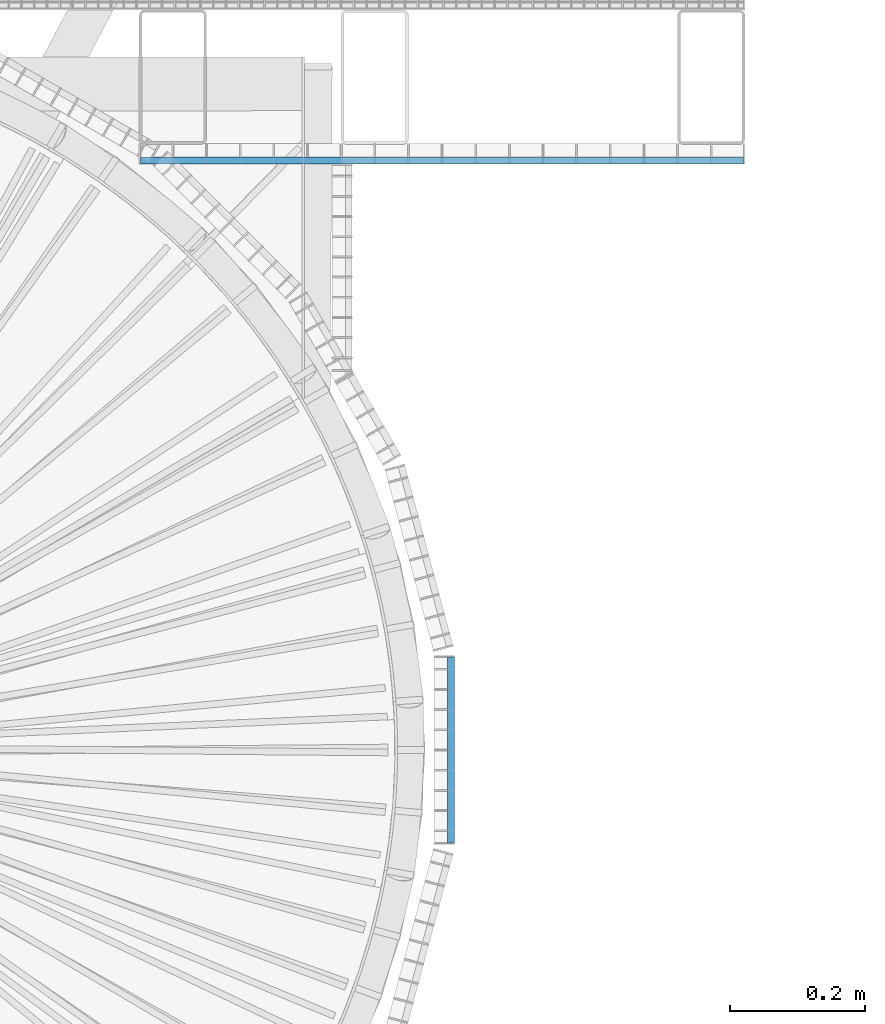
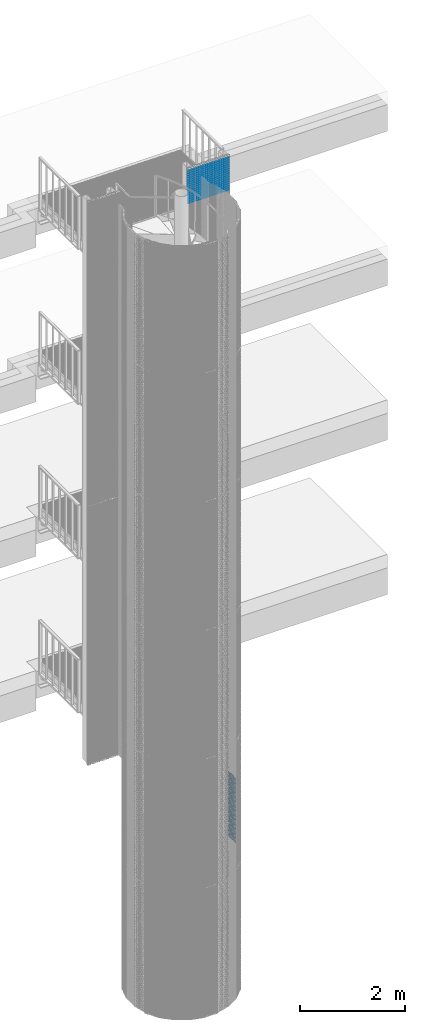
# One storey, part 303 of 1183: 67 beams, 2 elements without a shape of their own.
"""IFC2X3 building model written with IfcOpenShell, lengths in millimetres."""

from ifc_helpers import new_model, si_unit, frame, origin_with_axes, origin_2d_with_axis, place, context, subcontext, project, spatial, rectangle, extrude, material, type_object, element, aggregate, save


model = new_model("IFC2X3")

# Units and contexts
model_context = context("Model", 3, precision=1e-05, world=origin_with_axes())
body_context = subcontext(model_context, "Body", "Model", "MODEL_VIEW")
ifc_project = project(units=[si_unit("LENGTHUNIT", "METRE", prefix="MILLI"), si_unit("AREAUNIT", "SQUARE_METRE"), si_unit("VOLUMEUNIT", "CUBIC_METRE"), si_unit("MASSUNIT", "GRAM", prefix="KILO"), si_unit("TIMEUNIT", "SECOND"), si_unit("PLANEANGLEUNIT", "RADIAN"), si_unit("SOLIDANGLEUNIT", "STERADIAN"), si_unit("THERMODYNAMICTEMPERATUREUNIT", "DEGREE_CELSIUS"), si_unit("LUMINOUSINTENSITYUNIT", "LUMEN")], contexts=[model_context])

# Site, building, storey
site_placement = place(None, origin_with_axes())
site = spatial("IfcSite", under=ifc_project, at=site_placement, Name="Undefined", CompositionType="ELEMENT")
building_placement = place(site_placement, origin_with_axes())
building = spatial("IfcBuilding", under=site, at=building_placement, Name="Undefined", CompositionType="ELEMENT")
storey_placement = place(building_placement, origin_with_axes())
storey = spatial("IfcBuildingStorey", under=building, at=storey_placement, Name="Undefined", CompositionType="ELEMENT", Elevation=0.0)

# Assembly, beams
assembly_1_placement = place(storey_placement, origin_with_axes())
assembly_1 = element("IfcElementAssembly", 1, at=assembly_1_placement, inside=storey, Name="BORDURE", AssemblyPlace="NOTDEFINED", PredefinedType="NOTDEFINED")
ifc_material = material(Name="STEEL/S235JR")
beam_type = type_object("IfcBeamType", Name="PL2*10", PredefinedType="NOTDEFINED")
beam_1_placement = place(assembly_1_placement, frame((1113.47999999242, -137.996003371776, 4530.0), z_axis=(1.0, 0.0, 0.0), x_axis=(0.0, 1.0, 0.0)))
beam_1 = element("IfcBeam", 2, at=beam_1_placement, type_object=beam_type, material=ifc_material, Name="ENTRETOISE", context=body_context, shape_type="SweptSolid", body=[
    extrude(rectangle(XDim=2.0, YDim=10.0, at=origin_2d_with_axis()), frame((275.999999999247, 9.09494701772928e-13, 1.53210777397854e-14), z_axis=(-1.0, 0.0, 0.0), x_axis=(0.0, -1.0, 0.0)), (0.0, 0.0, 1.0), 276.0),
])
beam_2_placement = place(assembly_1_placement, frame((1113.47999999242, -137.996003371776, 4500.0), z_axis=(1.0, 0.0, 0.0), x_axis=(0.0, 1.0, 0.0)))
beam_2 = element("IfcBeam", 3, at=beam_2_placement, type_object=beam_type, material=ifc_material, Name="ENTRETOISE", context=body_context, shape_type="SweptSolid", body=[
    extrude(rectangle(XDim=2.0, YDim=10.0, at=origin_2d_with_axis()), frame((275.999999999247, 9.09494701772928e-13, 1.53210777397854e-14), z_axis=(-1.0, 0.0, 0.0), x_axis=(0.0, -1.0, 0.0)), (0.0, 0.0, 1.0), 276.0),
])
beam_3_placement = place(assembly_1_placement, frame((1113.47999999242, -137.996003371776, 4470.0), z_axis=(1.0, 0.0, 0.0), x_axis=(0.0, 1.0, 0.0)))
beam_3 = element("IfcBeam", 4, at=beam_3_placement, type_object=beam_type, material=ifc_material, Name="ENTRETOISE", context=body_context, shape_type="SweptSolid", body=[
    extrude(rectangle(XDim=2.0, YDim=10.0, at=origin_2d_with_axis()), frame((275.999999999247, 9.09494701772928e-13, 1.53210777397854e-14), z_axis=(-1.0, 0.0, 0.0), x_axis=(0.0, -1.0, 0.0)), (0.0, 0.0, 1.0), 276.0),
])
beam_4_placement = place(assembly_1_placement, frame((1113.47999999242, -137.996003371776, 4440.0), z_axis=(1.0, 0.0, 0.0), x_axis=(0.0, 1.0, 0.0)))
beam_4 = element("IfcBeam", 5, at=beam_4_placement, type_object=beam_type, material=ifc_material, Name="ENTRETOISE", context=body_context, shape_type="SweptSolid", body=[
    extrude(rectangle(XDim=2.0, YDim=10.0, at=origin_2d_with_axis()), frame((275.999999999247, 9.09494701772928e-13, 1.53210777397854e-14), z_axis=(-1.0, 0.0, 0.0), x_axis=(0.0, -1.0, 0.0)), (0.0, 0.0, 1.0), 276.0),
])
beam_5_placement = place(assembly_1_placement, frame((1113.47999999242, -137.996003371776, 4410.0), z_axis=(1.0, 0.0, 0.0), x_axis=(0.0, 1.0, 0.0)))
beam_5 = element("IfcBeam", 6, at=beam_5_placement, type_object=beam_type, material=ifc_material, Name="ENTRETOISE", context=body_context, shape_type="SweptSolid", body=[
    extrude(rectangle(XDim=2.0, YDim=10.0, at=origin_2d_with_axis()), frame((275.999999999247, 9.09494701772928e-13, 1.53210777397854e-14), z_axis=(-1.0, 0.0, 0.0), x_axis=(0.0, -1.0, 0.0)), (0.0, 0.0, 1.0), 276.0),
])
beam_6_placement = place(assembly_1_placement, frame((1113.47999999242, -137.996003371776, 4380.0), z_axis=(1.0, 0.0, 0.0), x_axis=(0.0, 1.0, 0.0)))
beam_6 = element("IfcBeam", 7, at=beam_6_placement, type_object=beam_type, material=ifc_material, Name="ENTRETOISE", context=body_context, shape_type="SweptSolid", body=[
    extrude(rectangle(XDim=2.0, YDim=10.0, at=origin_2d_with_axis()), frame((275.999999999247, 9.09494701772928e-13, 1.53210777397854e-14), z_axis=(-1.0, 0.0, 0.0), x_axis=(0.0, -1.0, 0.0)), (0.0, 0.0, 1.0), 276.0),
])
beam_7_placement = place(assembly_1_placement, frame((1113.47999999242, -137.996003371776, 4350.0), z_axis=(1.0, 0.0, 0.0), x_axis=(0.0, 1.0, 0.0)))
beam_7 = element("IfcBeam", 8, at=beam_7_placement, type_object=beam_type, material=ifc_material, Name="ENTRETOISE", context=body_context, shape_type="SweptSolid", body=[
    extrude(rectangle(XDim=2.0, YDim=10.0, at=origin_2d_with_axis()), frame((275.999999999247, 9.09494701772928e-13, 1.53210777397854e-14), z_axis=(-1.0, 0.0, 0.0), x_axis=(0.0, -1.0, 0.0)), (0.0, 0.0, 1.0), 276.0),
])
beam_8_placement = place(assembly_1_placement, frame((1113.47999999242, -137.996003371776, 4320.0), z_axis=(1.0, 0.0, 0.0), x_axis=(0.0, 1.0, 0.0)))
beam_8 = element("IfcBeam", 9, at=beam_8_placement, type_object=beam_type, material=ifc_material, Name="ENTRETOISE", context=body_context, shape_type="SweptSolid", body=[
    extrude(rectangle(XDim=2.0, YDim=10.0, at=origin_2d_with_axis()), frame((275.999999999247, 9.09494701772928e-13, 1.53210777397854e-14), z_axis=(-1.0, 0.0, 0.0), x_axis=(0.0, -1.0, 0.0)), (0.0, 0.0, 1.0), 276.0),
])
beam_9_placement = place(assembly_1_placement, frame((1113.47999999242, -137.996003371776, 4290.0), z_axis=(1.0, 0.0, 0.0), x_axis=(0.0, 1.0, 0.0)))
beam_9 = element("IfcBeam", 10, at=beam_9_placement, type_object=beam_type, material=ifc_material, Name="ENTRETOISE", context=body_context, shape_type="SweptSolid", body=[
    extrude(rectangle(XDim=2.0, YDim=10.0, at=origin_2d_with_axis()), frame((275.999999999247, 9.09494701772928e-13, 1.53210777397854e-14), z_axis=(-1.0, 0.0, 0.0), x_axis=(0.0, -1.0, 0.0)), (0.0, 0.0, 1.0), 276.0),
])
beam_10_placement = place(assembly_1_placement, frame((1113.47999999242, -137.996003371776, 4260.0), z_axis=(1.0, 0.0, 0.0), x_axis=(0.0, 1.0, 0.0)))
beam_10 = element("IfcBeam", 11, at=beam_10_placement, type_object=beam_type, material=ifc_material, Name="ENTRETOISE", context=body_context, shape_type="SweptSolid", body=[
    extrude(rectangle(XDim=2.0, YDim=10.0, at=origin_2d_with_axis()), frame((275.999999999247, 9.09494701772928e-13, 1.53210777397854e-14), z_axis=(-1.0, 0.0, 0.0), x_axis=(0.0, -1.0, 0.0)), (0.0, 0.0, 1.0), 276.0),
])
beam_11_placement = place(assembly_1_placement, frame((1113.47999999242, -137.996003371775, 4230.0), z_axis=(1.0, 0.0, 0.0), x_axis=(0.0, 1.0, 0.0)))
beam_11 = element("IfcBeam", 12, at=beam_11_placement, type_object=beam_type, material=ifc_material, Name="ENTRETOISE", context=body_context, shape_type="SweptSolid", body=[
    extrude(rectangle(XDim=2.0, YDim=10.0, at=origin_2d_with_axis()), frame((275.999999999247, 9.09494701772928e-13, 1.53210777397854e-14), z_axis=(-1.0, 0.0, 0.0), x_axis=(0.0, -1.0, 0.0)), (0.0, 0.0, 1.0), 276.0),
])
beam_12_placement = place(assembly_1_placement, frame((1113.47999999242, -137.996003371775, 4200.0), z_axis=(1.0, 0.0, 0.0), x_axis=(0.0, 1.0, 0.0)))
beam_12 = element("IfcBeam", 13, at=beam_12_placement, type_object=beam_type, material=ifc_material, Name="ENTRETOISE", context=body_context, shape_type="SweptSolid", body=[
    extrude(rectangle(XDim=2.0, YDim=10.0, at=origin_2d_with_axis()), frame((275.999999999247, 9.09494701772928e-13, 1.53210777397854e-14), z_axis=(-1.0, 0.0, 0.0), x_axis=(0.0, -1.0, 0.0)), (0.0, 0.0, 1.0), 276.0),
])
beam_13_placement = place(assembly_1_placement, frame((1113.47999999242, -137.996003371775, 4170.0), z_axis=(1.0, 0.0, 0.0), x_axis=(0.0, 1.0, 0.0)))
beam_13 = element("IfcBeam", 14, at=beam_13_placement, type_object=beam_type, material=ifc_material, Name="ENTRETOISE", context=body_context, shape_type="SweptSolid", body=[
    extrude(rectangle(XDim=2.0, YDim=10.0, at=origin_2d_with_axis()), frame((275.999999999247, 9.09494701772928e-13, 1.53210777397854e-14), z_axis=(-1.0, 0.0, 0.0), x_axis=(0.0, -1.0, 0.0)), (0.0, 0.0, 1.0), 276.0),
])
beam_14_placement = place(assembly_1_placement, frame((1113.47999999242, -137.996003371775, 4140.0), z_axis=(1.0, 0.0, 0.0), x_axis=(0.0, 1.0, 0.0)))
beam_14 = element("IfcBeam", 15, at=beam_14_placement, type_object=beam_type, material=ifc_material, Name="ENTRETOISE", context=body_context, shape_type="SweptSolid", body=[
    extrude(rectangle(XDim=2.0, YDim=10.0, at=origin_2d_with_axis()), frame((275.999999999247, 9.09494701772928e-13, 1.53210777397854e-14), z_axis=(-1.0, 0.0, 0.0), x_axis=(0.0, -1.0, 0.0)), (0.0, 0.0, 1.0), 276.0),
])
beam_15_placement = place(assembly_1_placement, frame((1113.47999999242, -137.996003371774, 3720.0), z_axis=(1.0, 0.0, 0.0), x_axis=(0.0, 1.0, 0.0)))
beam_15 = element("IfcBeam", 16, at=beam_15_placement, type_object=beam_type, material=ifc_material, Name="ENTRETOISE", context=body_context, shape_type="SweptSolid", body=[
    extrude(rectangle(XDim=2.0, YDim=10.0, at=origin_2d_with_axis()), frame((275.999999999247, 9.09494701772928e-13, 1.53210777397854e-14), z_axis=(-1.0, 0.0, 0.0), x_axis=(0.0, -1.0, 0.0)), (0.0, 0.0, 1.0), 276.0),
])
beam_16_placement = place(assembly_1_placement, frame((1113.47999999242, -137.996003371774, 3690.0), z_axis=(1.0, 0.0, 0.0), x_axis=(0.0, 1.0, 0.0)))
beam_16 = element("IfcBeam", 17, at=beam_16_placement, type_object=beam_type, material=ifc_material, Name="ENTRETOISE", context=body_context, shape_type="SweptSolid", body=[
    extrude(rectangle(XDim=2.0, YDim=10.0, at=origin_2d_with_axis()), frame((275.999999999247, 9.09494701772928e-13, 1.53210777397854e-14), z_axis=(-1.0, 0.0, 0.0), x_axis=(0.0, -1.0, 0.0)), (0.0, 0.0, 1.0), 276.0),
])
beam_17_placement = place(assembly_1_placement, frame((1113.47999999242, -137.996003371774, 3750.0), z_axis=(1.0, 0.0, 0.0), x_axis=(0.0, 1.0, 0.0)))
beam_17 = element("IfcBeam", 18, at=beam_17_placement, type_object=beam_type, material=ifc_material, Name="ENTRETOISE", context=body_context, shape_type="SweptSolid", body=[
    extrude(rectangle(XDim=2.0, YDim=10.0, at=origin_2d_with_axis()), frame((275.999999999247, 9.09494701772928e-13, 1.53210777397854e-14), z_axis=(-1.0, 0.0, 0.0), x_axis=(0.0, -1.0, 0.0)), (0.0, 0.0, 1.0), 276.0),
])
beam_18_placement = place(assembly_1_placement, frame((1113.47999999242, -137.996003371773, 3660.0), z_axis=(1.0, 0.0, 0.0), x_axis=(0.0, 1.0, 0.0)))
beam_18 = element("IfcBeam", 19, at=beam_18_placement, type_object=beam_type, material=ifc_material, Name="ENTRETOISE", context=body_context, shape_type="SweptSolid", body=[
    extrude(rectangle(XDim=2.0, YDim=10.0, at=origin_2d_with_axis()), frame((275.999999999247, 9.09494701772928e-13, 1.53210777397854e-14), z_axis=(-1.0, 0.0, 0.0), x_axis=(0.0, -1.0, 0.0)), (0.0, 0.0, 1.0), 276.0),
])
beam_19_placement = place(assembly_1_placement, frame((1113.47999999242, -137.996003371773, 3630.0), z_axis=(1.0, 0.0, 0.0), x_axis=(0.0, 1.0, 0.0)))
beam_19 = element("IfcBeam", 20, at=beam_19_placement, type_object=beam_type, material=ifc_material, Name="ENTRETOISE", context=body_context, shape_type="SweptSolid", body=[
    extrude(rectangle(XDim=2.0, YDim=10.0, at=origin_2d_with_axis()), frame((275.999999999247, 9.09494701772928e-13, 1.53210777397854e-14), z_axis=(-1.0, 0.0, 0.0), x_axis=(0.0, -1.0, 0.0)), (0.0, 0.0, 1.0), 276.0),
])
beam_20_placement = place(assembly_1_placement, frame((1113.47999999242, -137.996003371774, 3780.0), z_axis=(1.0, 0.0, 0.0), x_axis=(0.0, 1.0, 0.0)))
beam_20 = element("IfcBeam", 21, at=beam_20_placement, type_object=beam_type, material=ifc_material, Name="ENTRETOISE", context=body_context, shape_type="SweptSolid", body=[
    extrude(rectangle(XDim=2.0, YDim=10.0, at=origin_2d_with_axis()), frame((275.999999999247, 9.09494701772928e-13, 1.53210777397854e-14), z_axis=(-1.0, 0.0, 0.0), x_axis=(0.0, -1.0, 0.0)), (0.0, 0.0, 1.0), 276.0),
])
beam_21_placement = place(assembly_1_placement, frame((1113.47999999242, -137.996003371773, 3600.0), z_axis=(1.0, 0.0, 0.0), x_axis=(0.0, 1.0, 0.0)))
beam_21 = element("IfcBeam", 22, at=beam_21_placement, type_object=beam_type, material=ifc_material, Name="ENTRETOISE", context=body_context, shape_type="SweptSolid", body=[
    extrude(rectangle(XDim=2.0, YDim=10.0, at=origin_2d_with_axis()), frame((275.999999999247, 9.09494701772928e-13, 1.53210777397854e-14), z_axis=(-1.0, 0.0, 0.0), x_axis=(0.0, -1.0, 0.0)), (0.0, 0.0, 1.0), 276.0),
])
beam_22_placement = place(assembly_1_placement, frame((1113.47999999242, -137.996003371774, 3810.0), z_axis=(1.0, 0.0, 0.0), x_axis=(0.0, 1.0, 0.0)))
beam_22 = element("IfcBeam", 23, at=beam_22_placement, type_object=beam_type, material=ifc_material, Name="ENTRETOISE", context=body_context, shape_type="SweptSolid", body=[
    extrude(rectangle(XDim=2.0, YDim=10.0, at=origin_2d_with_axis()), frame((275.999999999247, 9.09494701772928e-13, 1.53210777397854e-14), z_axis=(-1.0, 0.0, 0.0), x_axis=(0.0, -1.0, 0.0)), (0.0, 0.0, 1.0), 276.0),
])
beam_23_placement = place(assembly_1_placement, frame((1113.47999999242, -137.996003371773, 3570.0), z_axis=(1.0, 0.0, 0.0), x_axis=(0.0, 1.0, 0.0)))
beam_23 = element("IfcBeam", 24, at=beam_23_placement, type_object=beam_type, material=ifc_material, Name="ENTRETOISE", context=body_context, shape_type="SweptSolid", body=[
    extrude(rectangle(XDim=2.0, YDim=10.0, at=origin_2d_with_axis()), frame((275.999999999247, 9.09494701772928e-13, 1.53210777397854e-14), z_axis=(-1.0, 0.0, 0.0), x_axis=(0.0, -1.0, 0.0)), (0.0, 0.0, 1.0), 276.0),
])
beam_24_placement = place(assembly_1_placement, frame((1113.47999999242, -137.996003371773, 3540.0), z_axis=(1.0, 0.0, 0.0), x_axis=(0.0, 1.0, 0.0)))
beam_24 = element("IfcBeam", 25, at=beam_24_placement, type_object=beam_type, material=ifc_material, Name="ENTRETOISE", context=body_context, shape_type="SweptSolid", body=[
    extrude(rectangle(XDim=2.0, YDim=10.0, at=origin_2d_with_axis()), frame((275.999999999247, 9.09494701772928e-13, 1.53210777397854e-14), z_axis=(-1.0, 0.0, 0.0), x_axis=(0.0, -1.0, 0.0)), (0.0, 0.0, 1.0), 276.0),
])
beam_25_placement = place(assembly_1_placement, frame((1113.47999999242, -137.996003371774, 3840.0), z_axis=(1.0, 0.0, 0.0), x_axis=(0.0, 1.0, 0.0)))
beam_25 = element("IfcBeam", 26, at=beam_25_placement, type_object=beam_type, material=ifc_material, Name="ENTRETOISE", context=body_context, shape_type="SweptSolid", body=[
    extrude(rectangle(XDim=2.0, YDim=10.0, at=origin_2d_with_axis()), frame((275.999999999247, 9.09494701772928e-13, 1.53210777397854e-14), z_axis=(-1.0, 0.0, 0.0), x_axis=(0.0, -1.0, 0.0)), (0.0, 0.0, 1.0), 276.0),
])
beam_26_placement = place(assembly_1_placement, frame((1113.47999999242, -137.996003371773, 3510.0), z_axis=(1.0, 0.0, 0.0), x_axis=(0.0, 1.0, 0.0)))
beam_26 = element("IfcBeam", 27, at=beam_26_placement, type_object=beam_type, material=ifc_material, Name="ENTRETOISE", context=body_context, shape_type="SweptSolid", body=[
    extrude(rectangle(XDim=2.0, YDim=10.0, at=origin_2d_with_axis()), frame((275.999999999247, 9.09494701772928e-13, 1.53210777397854e-14), z_axis=(-1.0, 0.0, 0.0), x_axis=(0.0, -1.0, 0.0)), (0.0, 0.0, 1.0), 276.0),
])
beam_27_placement = place(assembly_1_placement, frame((1113.47999999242, -137.996003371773, 3480.0), z_axis=(1.0, 0.0, 0.0), x_axis=(0.0, 1.0, 0.0)))
beam_27 = element("IfcBeam", 28, at=beam_27_placement, type_object=beam_type, material=ifc_material, Name="ENTRETOISE", context=body_context, shape_type="SweptSolid", body=[
    extrude(rectangle(XDim=2.0, YDim=10.0, at=origin_2d_with_axis()), frame((275.999999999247, 9.09494701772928e-13, 1.53210777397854e-14), z_axis=(-1.0, 0.0, 0.0), x_axis=(0.0, -1.0, 0.0)), (0.0, 0.0, 1.0), 276.0),
])
beam_28_placement = place(assembly_1_placement, frame((1113.47999999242, -137.996003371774, 3870.0), z_axis=(1.0, 0.0, 0.0), x_axis=(0.0, 1.0, 0.0)))
beam_28 = element("IfcBeam", 29, at=beam_28_placement, type_object=beam_type, material=ifc_material, Name="ENTRETOISE", context=body_context, shape_type="SweptSolid", body=[
    extrude(rectangle(XDim=2.0, YDim=10.0, at=origin_2d_with_axis()), frame((275.999999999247, 9.09494701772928e-13, 1.53210777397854e-14), z_axis=(-1.0, 0.0, 0.0), x_axis=(0.0, -1.0, 0.0)), (0.0, 0.0, 1.0), 276.0),
])
beam_29_placement = place(assembly_1_placement, frame((1113.47999999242, -137.996003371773, 3450.0), z_axis=(1.0, 0.0, 0.0), x_axis=(0.0, 1.0, 0.0)))
beam_29 = element("IfcBeam", 30, at=beam_29_placement, type_object=beam_type, material=ifc_material, Name="ENTRETOISE", context=body_context, shape_type="SweptSolid", body=[
    extrude(rectangle(XDim=2.0, YDim=10.0, at=origin_2d_with_axis()), frame((275.999999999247, 9.09494701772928e-13, 1.53210777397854e-14), z_axis=(-1.0, 0.0, 0.0), x_axis=(0.0, -1.0, 0.0)), (0.0, 0.0, 1.0), 276.0),
])
beam_30_placement = place(assembly_1_placement, frame((1113.47999999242, -137.996003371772, 3420.0), z_axis=(1.0, 0.0, 0.0), x_axis=(0.0, 1.0, 0.0)))
beam_30 = element("IfcBeam", 31, at=beam_30_placement, type_object=beam_type, material=ifc_material, Name="ENTRETOISE", context=body_context, shape_type="SweptSolid", body=[
    extrude(rectangle(XDim=2.0, YDim=10.0, at=origin_2d_with_axis()), frame((275.999999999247, 9.09494701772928e-13, 1.53210777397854e-14), z_axis=(-1.0, 0.0, 0.0), x_axis=(0.0, -1.0, 0.0)), (0.0, 0.0, 1.0), 276.0),
])
beam_31_placement = place(assembly_1_placement, frame((1113.47999999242, -137.996003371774, 3900.0), z_axis=(1.0, 0.0, 0.0), x_axis=(0.0, 1.0, 0.0)))
beam_31 = element("IfcBeam", 32, at=beam_31_placement, type_object=beam_type, material=ifc_material, Name="ENTRETOISE", context=body_context, shape_type="SweptSolid", body=[
    extrude(rectangle(XDim=2.0, YDim=10.0, at=origin_2d_with_axis()), frame((275.999999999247, 9.09494701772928e-13, 1.53210777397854e-14), z_axis=(-1.0, 0.0, 0.0), x_axis=(0.0, -1.0, 0.0)), (0.0, 0.0, 1.0), 276.0),
])
beam_32_placement = place(assembly_1_placement, frame((1113.47999999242, -137.996003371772, 3390.0), z_axis=(1.0, 0.0, 0.0), x_axis=(0.0, 1.0, 0.0)))
beam_32 = element("IfcBeam", 33, at=beam_32_placement, type_object=beam_type, material=ifc_material, Name="ENTRETOISE", context=body_context, shape_type="SweptSolid", body=[
    extrude(rectangle(XDim=2.0, YDim=10.0, at=origin_2d_with_axis()), frame((275.999999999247, 9.09494701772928e-13, 1.53210777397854e-14), z_axis=(-1.0, 0.0, 0.0), x_axis=(0.0, -1.0, 0.0)), (0.0, 0.0, 1.0), 276.0),
])
beam_33_placement = place(assembly_1_placement, frame((1113.47999999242, -137.996003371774, 3930.0), z_axis=(1.0, 0.0, 0.0), x_axis=(0.0, 1.0, 0.0)))
beam_33 = element("IfcBeam", 34, at=beam_33_placement, type_object=beam_type, material=ifc_material, Name="ENTRETOISE", context=body_context, shape_type="SweptSolid", body=[
    extrude(rectangle(XDim=2.0, YDim=10.0, at=origin_2d_with_axis()), frame((275.999999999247, 9.09494701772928e-13, 1.53210777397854e-14), z_axis=(-1.0, 0.0, 0.0), x_axis=(0.0, -1.0, 0.0)), (0.0, 0.0, 1.0), 276.0),
])
beam_34_placement = place(assembly_1_placement, frame((1113.47999999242, -137.996003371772, 3360.0), z_axis=(1.0, 0.0, 0.0), x_axis=(0.0, 1.0, 0.0)))
beam_34 = element("IfcBeam", 35, at=beam_34_placement, type_object=beam_type, material=ifc_material, Name="ENTRETOISE", context=body_context, shape_type="SweptSolid", body=[
    extrude(rectangle(XDim=2.0, YDim=10.0, at=origin_2d_with_axis()), frame((275.999999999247, 9.09494701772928e-13, 1.53210777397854e-14), z_axis=(-1.0, 0.0, 0.0), x_axis=(0.0, -1.0, 0.0)), (0.0, 0.0, 1.0), 276.0),
])
beam_35_placement = place(assembly_1_placement, frame((1113.47999999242, -137.996003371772, 3330.0), z_axis=(1.0, 0.0, 0.0), x_axis=(0.0, 1.0, 0.0)))
beam_35 = element("IfcBeam", 36, at=beam_35_placement, type_object=beam_type, material=ifc_material, Name="ENTRETOISE", context=body_context, shape_type="SweptSolid", body=[
    extrude(rectangle(XDim=2.0, YDim=10.0, at=origin_2d_with_axis()), frame((275.999999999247, 9.09494701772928e-13, 1.53210777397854e-14), z_axis=(-1.0, 0.0, 0.0), x_axis=(0.0, -1.0, 0.0)), (0.0, 0.0, 1.0), 276.0),
])
beam_36_placement = place(assembly_1_placement, frame((1113.47999999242, -137.996003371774, 3960.0), z_axis=(1.0, 0.0, 0.0), x_axis=(0.0, 1.0, 0.0)))
beam_36 = element("IfcBeam", 37, at=beam_36_placement, type_object=beam_type, material=ifc_material, Name="ENTRETOISE", context=body_context, shape_type="SweptSolid", body=[
    extrude(rectangle(XDim=2.0, YDim=10.0, at=origin_2d_with_axis()), frame((275.999999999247, 9.09494701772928e-13, 1.53210777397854e-14), z_axis=(-1.0, 0.0, 0.0), x_axis=(0.0, -1.0, 0.0)), (0.0, 0.0, 1.0), 276.0),
])
beam_37_placement = place(assembly_1_placement, frame((1113.47999999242, -137.996003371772, 3300.0), z_axis=(1.0, 0.0, 0.0), x_axis=(0.0, 1.0, 0.0)))
beam_37 = element("IfcBeam", 38, at=beam_37_placement, type_object=beam_type, material=ifc_material, Name="ENTRETOISE", context=body_context, shape_type="SweptSolid", body=[
    extrude(rectangle(XDim=2.0, YDim=10.0, at=origin_2d_with_axis()), frame((275.999999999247, 9.09494701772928e-13, 1.53210777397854e-14), z_axis=(-1.0, 0.0, 0.0), x_axis=(0.0, -1.0, 0.0)), (0.0, 0.0, 1.0), 276.0),
])
beam_38_placement = place(assembly_1_placement, frame((1113.47999999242, -137.996003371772, 3270.0), z_axis=(1.0, 0.0, 0.0), x_axis=(0.0, 1.0, 0.0)))
beam_38 = element("IfcBeam", 39, at=beam_38_placement, type_object=beam_type, material=ifc_material, Name="ENTRETOISE", context=body_context, shape_type="SweptSolid", body=[
    extrude(rectangle(XDim=2.0, YDim=10.0, at=origin_2d_with_axis()), frame((275.999999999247, 9.09494701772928e-13, 1.53210777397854e-14), z_axis=(-1.0, 0.0, 0.0), x_axis=(0.0, -1.0, 0.0)), (0.0, 0.0, 1.0), 276.0),
])
beam_39_placement = place(assembly_1_placement, frame((1113.47999999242, -137.996003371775, 3990.0), z_axis=(1.0, 0.0, 0.0), x_axis=(0.0, 1.0, 0.0)))
beam_39 = element("IfcBeam", 40, at=beam_39_placement, type_object=beam_type, material=ifc_material, Name="ENTRETOISE", context=body_context, shape_type="SweptSolid", body=[
    extrude(rectangle(XDim=2.0, YDim=10.0, at=origin_2d_with_axis()), frame((275.999999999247, 9.09494701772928e-13, 1.53210777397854e-14), z_axis=(-1.0, 0.0, 0.0), x_axis=(0.0, -1.0, 0.0)), (0.0, 0.0, 1.0), 276.0),
])
beam_40_placement = place(assembly_1_placement, frame((1113.47999999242, -137.996003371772, 3240.0), z_axis=(1.0, 0.0, 0.0), x_axis=(0.0, 1.0, 0.0)))
beam_40 = element("IfcBeam", 41, at=beam_40_placement, type_object=beam_type, material=ifc_material, Name="ENTRETOISE", context=body_context, shape_type="SweptSolid", body=[
    extrude(rectangle(XDim=2.0, YDim=10.0, at=origin_2d_with_axis()), frame((275.999999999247, 9.09494701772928e-13, 1.53210777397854e-14), z_axis=(-1.0, 0.0, 0.0), x_axis=(0.0, -1.0, 0.0)), (0.0, 0.0, 1.0), 276.0),
])
beam_41_placement = place(assembly_1_placement, frame((1113.47999999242, -137.996003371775, 4020.0), z_axis=(1.0, 0.0, 0.0), x_axis=(0.0, 1.0, 0.0)))
beam_41 = element("IfcBeam", 42, at=beam_41_placement, type_object=beam_type, material=ifc_material, Name="ENTRETOISE", context=body_context, shape_type="SweptSolid", body=[
    extrude(rectangle(XDim=2.0, YDim=10.0, at=origin_2d_with_axis()), frame((275.999999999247, 9.09494701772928e-13, 1.53210777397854e-14), z_axis=(-1.0, 0.0, 0.0), x_axis=(0.0, -1.0, 0.0)), (0.0, 0.0, 1.0), 276.0),
])
beam_42_placement = place(assembly_1_placement, frame((1113.47999999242, -137.996003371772, 3210.0), z_axis=(1.0, 0.0, 0.0), x_axis=(0.0, 1.0, 0.0)))
beam_42 = element("IfcBeam", 43, at=beam_42_placement, type_object=beam_type, material=ifc_material, Name="ENTRETOISE", context=body_context, shape_type="SweptSolid", body=[
    extrude(rectangle(XDim=2.0, YDim=10.0, at=origin_2d_with_axis()), frame((275.999999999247, 9.09494701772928e-13, 1.53210777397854e-14), z_axis=(-1.0, 0.0, 0.0), x_axis=(0.0, -1.0, 0.0)), (0.0, 0.0, 1.0), 276.0),
])
beam_43_placement = place(assembly_1_placement, frame((1113.47999999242, -137.996003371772, 3180.0), z_axis=(1.0, 0.0, 0.0), x_axis=(0.0, 1.0, 0.0)))
beam_43 = element("IfcBeam", 44, at=beam_43_placement, type_object=beam_type, material=ifc_material, Name="ENTRETOISE", context=body_context, shape_type="SweptSolid", body=[
    extrude(rectangle(XDim=2.0, YDim=10.0, at=origin_2d_with_axis()), frame((275.999999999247, 9.09494701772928e-13, 1.53210777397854e-14), z_axis=(-1.0, 0.0, 0.0), x_axis=(0.0, -1.0, 0.0)), (0.0, 0.0, 1.0), 276.0),
])
beam_44_placement = place(assembly_1_placement, frame((1113.47999999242, -137.996003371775, 4050.0), z_axis=(1.0, 0.0, 0.0), x_axis=(0.0, 1.0, 0.0)))
beam_44 = element("IfcBeam", 45, at=beam_44_placement, type_object=beam_type, material=ifc_material, Name="ENTRETOISE", context=body_context, shape_type="SweptSolid", body=[
    extrude(rectangle(XDim=2.0, YDim=10.0, at=origin_2d_with_axis()), frame((275.999999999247, 9.09494701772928e-13, 1.53210777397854e-14), z_axis=(-1.0, 0.0, 0.0), x_axis=(0.0, -1.0, 0.0)), (0.0, 0.0, 1.0), 276.0),
])
beam_45_placement = place(assembly_1_placement, frame((1113.47999999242, -137.996003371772, 3150.0), z_axis=(1.0, 0.0, 0.0), x_axis=(0.0, 1.0, 0.0)))
beam_45 = element("IfcBeam", 46, at=beam_45_placement, type_object=beam_type, material=ifc_material, Name="ENTRETOISE", context=body_context, shape_type="SweptSolid", body=[
    extrude(rectangle(XDim=2.0, YDim=10.0, at=origin_2d_with_axis()), frame((275.999999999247, 9.09494701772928e-13, 1.53210777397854e-14), z_axis=(-1.0, 0.0, 0.0), x_axis=(0.0, -1.0, 0.0)), (0.0, 0.0, 1.0), 276.0),
])
beam_46_placement = place(assembly_1_placement, frame((1113.47999999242, -137.996003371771, 3120.0), z_axis=(1.0, 0.0, 0.0), x_axis=(0.0, 1.0, 0.0)))
beam_46 = element("IfcBeam", 47, at=beam_46_placement, type_object=beam_type, material=ifc_material, Name="ENTRETOISE", context=body_context, shape_type="SweptSolid", body=[
    extrude(rectangle(XDim=2.0, YDim=10.0, at=origin_2d_with_axis()), frame((275.999999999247, 9.09494701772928e-13, 1.53210777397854e-14), z_axis=(-1.0, 0.0, 0.0), x_axis=(0.0, -1.0, 0.0)), (0.0, 0.0, 1.0), 276.0),
])
beam_47_placement = place(assembly_1_placement, frame((1113.47999999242, -137.996003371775, 4080.0), z_axis=(1.0, 0.0, 0.0), x_axis=(0.0, 1.0, 0.0)))
beam_47 = element("IfcBeam", 48, at=beam_47_placement, type_object=beam_type, material=ifc_material, Name="ENTRETOISE", context=body_context, shape_type="SweptSolid", body=[
    extrude(rectangle(XDim=2.0, YDim=10.0, at=origin_2d_with_axis()), frame((275.999999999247, 9.09494701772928e-13, 1.53210777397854e-14), z_axis=(-1.0, 0.0, 0.0), x_axis=(0.0, -1.0, 0.0)), (0.0, 0.0, 1.0), 276.0),
])
beam_48_placement = place(assembly_1_placement, frame((1113.47999999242, -137.996003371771, 3090.0), z_axis=(1.0, 0.0, 0.0), x_axis=(0.0, 1.0, 0.0)))
beam_48 = element("IfcBeam", 49, at=beam_48_placement, type_object=beam_type, material=ifc_material, Name="ENTRETOISE", context=body_context, shape_type="SweptSolid", body=[
    extrude(rectangle(XDim=2.0, YDim=10.0, at=origin_2d_with_axis()), frame((275.999999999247, 9.09494701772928e-13, 1.53210777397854e-14), z_axis=(-1.0, 0.0, 0.0), x_axis=(0.0, -1.0, 0.0)), (0.0, 0.0, 1.0), 276.0),
])
beam_49_placement = place(assembly_1_placement, frame((1113.47999999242, -137.996003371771, 3060.0), z_axis=(1.0, 0.0, 0.0), x_axis=(0.0, 1.0, 0.0)))
beam_49 = element("IfcBeam", 50, at=beam_49_placement, type_object=beam_type, material=ifc_material, Name="ENTRETOISE", context=body_context, shape_type="SweptSolid", body=[
    extrude(rectangle(XDim=2.0, YDim=10.0, at=origin_2d_with_axis()), frame((275.999999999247, 9.09494701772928e-13, 1.53210777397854e-14), z_axis=(-1.0, 0.0, 0.0), x_axis=(0.0, -1.0, 0.0)), (0.0, 0.0, 1.0), 276.0),
])
beam_50_placement = place(assembly_1_placement, frame((1113.47999999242, -137.996003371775, 4110.0), z_axis=(1.0, 0.0, 0.0), x_axis=(0.0, 1.0, 0.0)))
beam_50 = element("IfcBeam", 51, at=beam_50_placement, type_object=beam_type, material=ifc_material, Name="ENTRETOISE", context=body_context, shape_type="SweptSolid", body=[
    extrude(rectangle(XDim=2.0, YDim=10.0, at=origin_2d_with_axis()), frame((275.999999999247, 9.09494701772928e-13, 1.53210777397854e-14), z_axis=(-1.0, 0.0, 0.0), x_axis=(0.0, -1.0, 0.0)), (0.0, 0.0, 1.0), 276.0),
])
beam_51_placement = place(assembly_1_placement, frame((1113.47999999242, -137.99600337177, 3030.0), z_axis=(1.0, 0.0, 0.0), x_axis=(0.0, 1.0, 0.0)))
beam_51 = element("IfcBeam", 52, at=beam_51_placement, type_object=beam_type, material=ifc_material, Name="ENTRETOISE", context=body_context, shape_type="SweptSolid", body=[
    extrude(rectangle(XDim=2.0, YDim=10.0, at=origin_2d_with_axis()), frame((275.999999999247, 9.09494701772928e-13, 1.53210777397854e-14), z_axis=(-1.0, 0.0, 0.0), x_axis=(0.0, -1.0, 0.0)), (0.0, 0.0, 1.0), 276.0),
])
aggregate(assembly_1, [beam_1, beam_2, beam_3, beam_4, beam_5, beam_6, beam_7, beam_8, beam_9, beam_10, beam_11, beam_12, beam_13, beam_14, beam_15, beam_16, beam_17, beam_18, beam_19, beam_20, beam_21, beam_22, beam_23, beam_24, beam_25, beam_26, beam_27, beam_28, beam_29, beam_30, beam_31, beam_32, beam_33, beam_34, beam_35, beam_36, beam_37, beam_38, beam_39, beam_40, beam_41, beam_42, beam_43, beam_44, beam_45, beam_46, beam_47, beam_48, beam_49, beam_50, beam_51])

assembly_2_placement = place(storey_placement, origin_with_axes())
assembly_2 = element("IfcElementAssembly", 53, at=assembly_2_placement, inside=storey, Name="BORDURE", AssemblyPlace="NOTDEFINED", PredefinedType="NOTDEFINED")
beam_52_placement = place(assembly_2_placement, frame((652.069589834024, 876.014689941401, 18239.998), z_axis=(0.0, -1.0, 0.0), x_axis=(1.0, 0.0, 0.0)))
beam_52 = element("IfcBeam", 54, at=beam_52_placement, type_object=beam_type, material=ifc_material, Name="ENTRETOISE", context=body_context, shape_type="SweptSolid", body=[
    extrude(rectangle(XDim=2.0, YDim=10.0, at=origin_2d_with_axis()), frame((896.0, 0.0, 0.0), z_axis=(-1.0, 0.0, 0.0), x_axis=(0.0, -1.0, 0.0)), (0.0, 0.0, 1.0), 896.0),
])
beam_53_placement = place(assembly_2_placement, frame((652.069589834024, 876.014689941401, 18189.998), z_axis=(0.0, -1.0, 0.0), x_axis=(1.0, 0.0, 0.0)))
beam_53 = element("IfcBeam", 55, at=beam_53_placement, type_object=beam_type, material=ifc_material, Name="ENTRETOISE", context=body_context, shape_type="SweptSolid", body=[
    extrude(rectangle(XDim=2.0, YDim=10.0, at=origin_2d_with_axis()), frame((896.0, 0.0, 0.0), z_axis=(-1.0, 0.0, 0.0), x_axis=(0.0, -1.0, 0.0)), (0.0, 0.0, 1.0), 896.0),
])
beam_54_placement = place(assembly_2_placement, frame((652.069589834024, 876.014689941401, 18139.998), z_axis=(0.0, -1.0, 0.0), x_axis=(1.0, 0.0, 0.0)))
beam_54 = element("IfcBeam", 56, at=beam_54_placement, type_object=beam_type, material=ifc_material, Name="ENTRETOISE", context=body_context, shape_type="SweptSolid", body=[
    extrude(rectangle(XDim=2.0, YDim=10.0, at=origin_2d_with_axis()), frame((896.0, 0.0, 0.0), z_axis=(-1.0, 0.0, 0.0), x_axis=(0.0, -1.0, 0.0)), (0.0, 0.0, 1.0), 896.0),
])
beam_55_placement = place(assembly_2_placement, frame((652.069589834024, 876.014689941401, 18089.998), z_axis=(0.0, -1.0, 0.0), x_axis=(1.0, 0.0, 0.0)))
beam_55 = element("IfcBeam", 57, at=beam_55_placement, type_object=beam_type, material=ifc_material, Name="ENTRETOISE", context=body_context, shape_type="SweptSolid", body=[
    extrude(rectangle(XDim=2.0, YDim=10.0, at=origin_2d_with_axis()), frame((896.0, 0.0, 0.0), z_axis=(-1.0, 0.0, 0.0), x_axis=(0.0, -1.0, 0.0)), (0.0, 0.0, 1.0), 896.0),
])
beam_56_placement = place(assembly_2_placement, frame((652.069589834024, 876.014689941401, 18039.998), z_axis=(0.0, -1.0, 0.0), x_axis=(1.0, 0.0, 0.0)))
beam_56 = element("IfcBeam", 58, at=beam_56_placement, type_object=beam_type, material=ifc_material, Name="ENTRETOISE", context=body_context, shape_type="SweptSolid", body=[
    extrude(rectangle(XDim=2.0, YDim=10.0, at=origin_2d_with_axis()), frame((896.0, 0.0, 0.0), z_axis=(-1.0, 0.0, 0.0), x_axis=(0.0, -1.0, 0.0)), (0.0, 0.0, 1.0), 896.0),
])
beam_57_placement = place(assembly_2_placement, frame((652.069589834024, 876.014689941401, 17989.998), z_axis=(0.0, -1.0, 0.0), x_axis=(1.0, 0.0, 0.0)))
beam_57 = element("IfcBeam", 59, at=beam_57_placement, type_object=beam_type, material=ifc_material, Name="ENTRETOISE", context=body_context, shape_type="SweptSolid", body=[
    extrude(rectangle(XDim=2.0, YDim=10.0, at=origin_2d_with_axis()), frame((896.0, 0.0, 0.0), z_axis=(-1.0, 0.0, 0.0), x_axis=(0.0, -1.0, 0.0)), (0.0, 0.0, 1.0), 896.0),
])
beam_58_placement = place(assembly_2_placement, frame((652.069589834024, 876.014689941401, 17939.998), z_axis=(0.0, -1.0, 0.0), x_axis=(1.0, 0.0, 0.0)))
beam_58 = element("IfcBeam", 60, at=beam_58_placement, type_object=beam_type, material=ifc_material, Name="ENTRETOISE", context=body_context, shape_type="SweptSolid", body=[
    extrude(rectangle(XDim=2.0, YDim=10.0, at=origin_2d_with_axis()), frame((896.0, 0.0, 0.0), z_axis=(-1.0, 0.0, 0.0), x_axis=(0.0, -1.0, 0.0)), (0.0, 0.0, 1.0), 896.0),
])
beam_59_placement = place(assembly_2_placement, frame((652.069589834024, 876.014689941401, 17889.998), z_axis=(0.0, -1.0, 0.0), x_axis=(1.0, 0.0, 0.0)))
beam_59 = element("IfcBeam", 61, at=beam_59_placement, type_object=beam_type, material=ifc_material, Name="ENTRETOISE", context=body_context, shape_type="SweptSolid", body=[
    extrude(rectangle(XDim=2.0, YDim=10.0, at=origin_2d_with_axis()), frame((896.0, 0.0, 0.0), z_axis=(-1.0, 0.0, 0.0), x_axis=(0.0, -1.0, 0.0)), (0.0, 0.0, 1.0), 896.0),
])
beam_60_placement = place(assembly_2_placement, frame((652.069589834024, 876.014689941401, 17839.998), z_axis=(0.0, -1.0, 0.0), x_axis=(1.0, 0.0, 0.0)))
beam_60 = element("IfcBeam", 62, at=beam_60_placement, type_object=beam_type, material=ifc_material, Name="ENTRETOISE", context=body_context, shape_type="SweptSolid", body=[
    extrude(rectangle(XDim=2.0, YDim=10.0, at=origin_2d_with_axis()), frame((896.0, 0.0, 0.0), z_axis=(-1.0, 0.0, 0.0), x_axis=(0.0, -1.0, 0.0)), (0.0, 0.0, 1.0), 896.0),
])
beam_61_placement = place(assembly_2_placement, frame((652.069589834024, 876.014689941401, 17789.998), z_axis=(0.0, -1.0, 0.0), x_axis=(1.0, 0.0, 0.0)))
beam_61 = element("IfcBeam", 63, at=beam_61_placement, type_object=beam_type, material=ifc_material, Name="ENTRETOISE", context=body_context, shape_type="SweptSolid", body=[
    extrude(rectangle(XDim=2.0, YDim=10.0, at=origin_2d_with_axis()), frame((896.0, 0.0, 0.0), z_axis=(-1.0, 0.0, 0.0), x_axis=(0.0, -1.0, 0.0)), (0.0, 0.0, 1.0), 896.0),
])
beam_62_placement = place(assembly_2_placement, frame((652.069589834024, 876.014689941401, 17739.998), z_axis=(0.0, -1.0, 0.0), x_axis=(1.0, 0.0, 0.0)))
beam_62 = element("IfcBeam", 64, at=beam_62_placement, type_object=beam_type, material=ifc_material, Name="ENTRETOISE", context=body_context, shape_type="SweptSolid", body=[
    extrude(rectangle(XDim=2.0, YDim=10.0, at=origin_2d_with_axis()), frame((896.0, 0.0, 0.0), z_axis=(-1.0, 0.0, 0.0), x_axis=(0.0, -1.0, 0.0)), (0.0, 0.0, 1.0), 896.0),
])
beam_63_placement = place(assembly_2_placement, frame((652.069589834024, 876.014689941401, 17689.998), z_axis=(0.0, -1.0, 0.0), x_axis=(1.0, 0.0, 0.0)))
beam_63 = element("IfcBeam", 65, at=beam_63_placement, type_object=beam_type, material=ifc_material, Name="ENTRETOISE", context=body_context, shape_type="SweptSolid", body=[
    extrude(rectangle(XDim=2.0, YDim=10.0, at=origin_2d_with_axis()), frame((896.0, 0.0, 0.0), z_axis=(-1.0, 0.0, 0.0), x_axis=(0.0, -1.0, 0.0)), (0.0, 0.0, 1.0), 896.0),
])
beam_64_placement = place(assembly_2_placement, frame((652.069589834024, 876.014689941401, 17639.998), z_axis=(0.0, -1.0, 0.0), x_axis=(1.0, 0.0, 0.0)))
beam_64 = element("IfcBeam", 66, at=beam_64_placement, type_object=beam_type, material=ifc_material, Name="ENTRETOISE", context=body_context, shape_type="SweptSolid", body=[
    extrude(rectangle(XDim=2.0, YDim=10.0, at=origin_2d_with_axis()), frame((896.0, 0.0, 0.0), z_axis=(-1.0, 0.0, 0.0), x_axis=(0.0, -1.0, 0.0)), (0.0, 0.0, 1.0), 896.0),
])
beam_65_placement = place(assembly_2_placement, frame((652.069589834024, 876.014689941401, 17589.998), z_axis=(0.0, -1.0, 0.0), x_axis=(1.0, 0.0, 0.0)))
beam_65 = element("IfcBeam", 67, at=beam_65_placement, type_object=beam_type, material=ifc_material, Name="ENTRETOISE", context=body_context, shape_type="SweptSolid", body=[
    extrude(rectangle(XDim=2.0, YDim=10.0, at=origin_2d_with_axis()), frame((896.0, 0.0, 0.0), z_axis=(-1.0, 0.0, 0.0), x_axis=(0.0, -1.0, 0.0)), (0.0, 0.0, 1.0), 896.0),
])
beam_66_placement = place(assembly_2_placement, frame((652.069589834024, 876.014689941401, 17539.998), z_axis=(0.0, -1.0, 0.0), x_axis=(1.0, 0.0, 0.0)))
beam_66 = element("IfcBeam", 68, at=beam_66_placement, type_object=beam_type, material=ifc_material, Name="ENTRETOISE", context=body_context, shape_type="SweptSolid", body=[
    extrude(rectangle(XDim=2.0, YDim=10.0, at=origin_2d_with_axis()), frame((896.0, 0.0, 0.0), z_axis=(-1.0, 0.0, 0.0), x_axis=(0.0, -1.0, 0.0)), (0.0, 0.0, 1.0), 896.0),
])
beam_67_placement = place(assembly_2_placement, frame((652.069589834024, 876.014689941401, 17489.998), z_axis=(0.0, -1.0, 0.0), x_axis=(1.0, 0.0, 0.0)))
beam_67 = element("IfcBeam", 69, at=beam_67_placement, type_object=beam_type, material=ifc_material, Name="ENTRETOISE", context=body_context, shape_type="SweptSolid", body=[
    extrude(rectangle(XDim=2.0, YDim=10.0, at=origin_2d_with_axis()), frame((896.0, 0.0, 0.0), z_axis=(-1.0, 0.0, 0.0), x_axis=(0.0, -1.0, 0.0)), (0.0, 0.0, 1.0), 896.0),
])
aggregate(assembly_2, [beam_52, beam_53, beam_54, beam_55, beam_56, beam_57, beam_58, beam_59, beam_60, beam_61, beam_62, beam_63, beam_64, beam_65, beam_66, beam_67])

save(model, "model.ifc")
